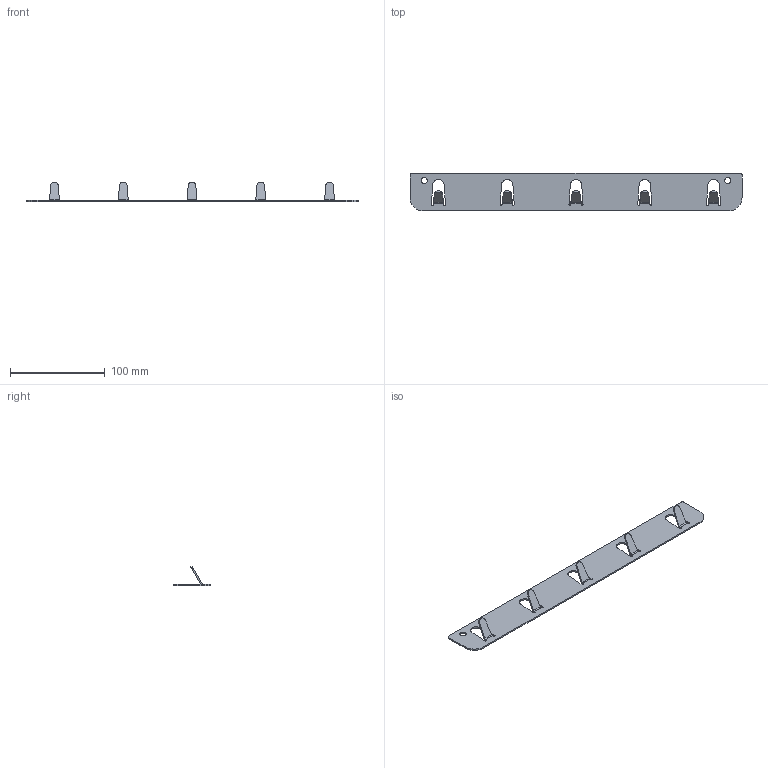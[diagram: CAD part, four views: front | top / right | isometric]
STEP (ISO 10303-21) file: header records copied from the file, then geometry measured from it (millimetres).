
FILE_DESCRIPTION((''),'2;1');
FILE_NAME('674555','2023-09-11T09:47:05',('1ke04'),('Kesseboehmer'),'CREO PARAMETRIC BY PTC INC, 2020414','CREO PARAMETRIC BY PTC INC, 2020414','');
FILE_SCHEMA(('AUTOMOTIVE_DESIGN { 1 0 10303 214 1 1 1 1 }'));
Length unit declared in the file: millimetre
Products named in the file (1): 674555
Bounding box: 350 x 40 x 20.57 mm (x, y, z)
Volume: 19922.9 mm3; surface area: 28671.1 mm2
Topology: 1 solids, 1 shells, 114 faces, 296 edges, 186 vertices
Faces by surface type: plane 56, cylinder 48, bspline 10
Entity records: 4556 total; most frequent: CARTESIAN_POINT 1045, DIRECTION 596, ORIENTED_EDGE 592, EDGE_CURVE 296, VECTOR 203, LINE 203, AXIS2_PLACEMENT_3D 195, COLOUR_RGB 193
